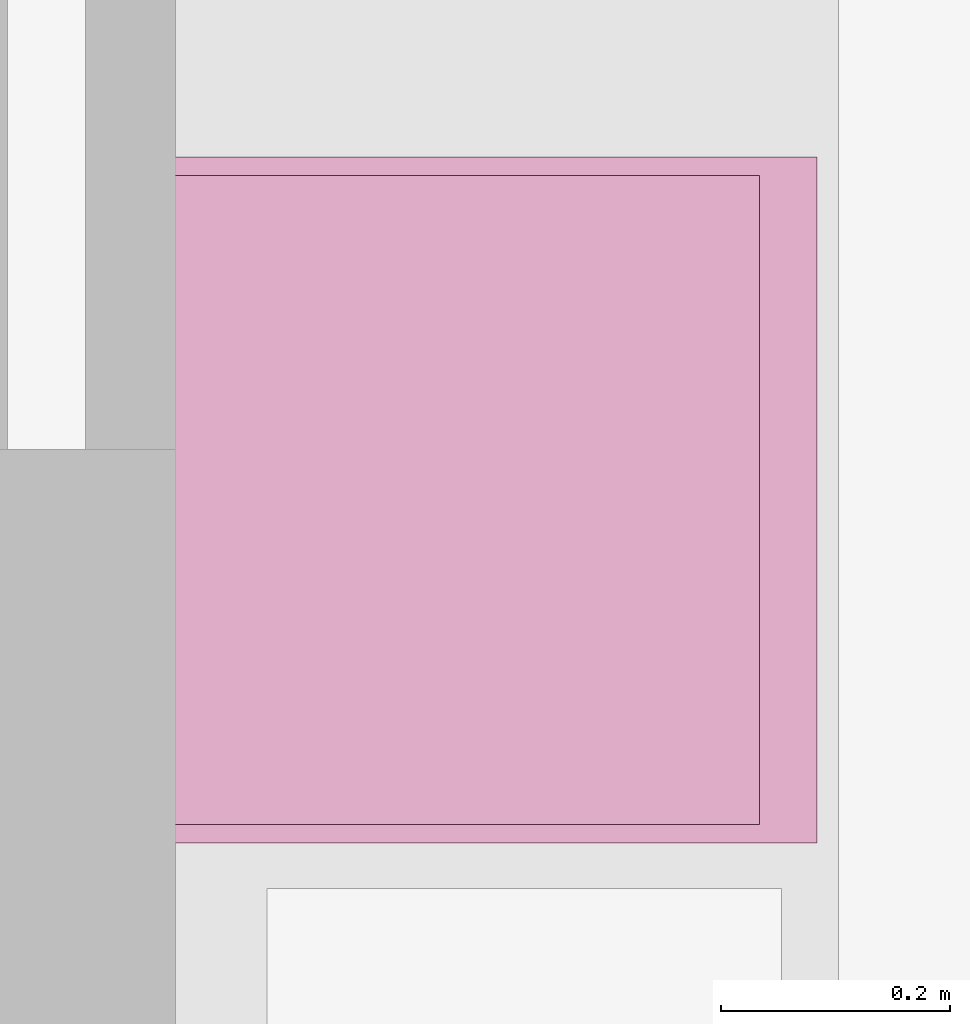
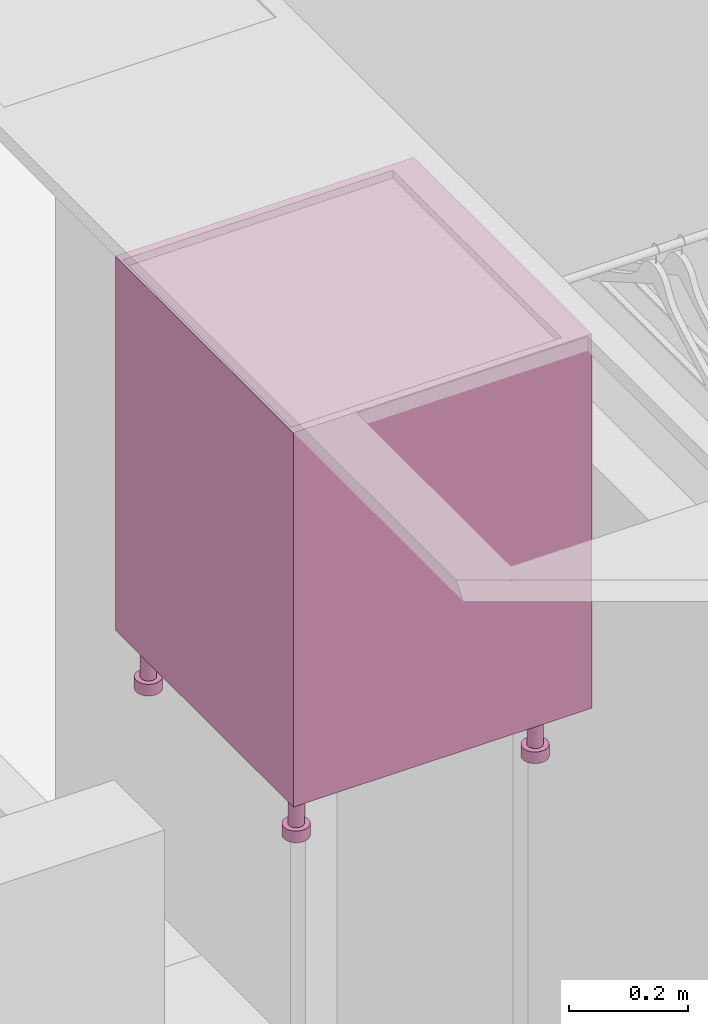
# One storey, part 34 of 68: 1 furnishing.
"""IFC2X3 building model written with IfcOpenShell, lengths in millimetres."""

from ifc_helpers import new_model, entity, si_unit, converted_unit, direction, frame, origin, place, context, subcontext, project, spatial, faceted_brep, source, transform, mapped, material, type_object, type_shapes, element, save


model = new_model("IFC2X3")

# Units and contexts
model_context = context("Model", 3, precision=0.01, world=origin(), true_north=direction((6.123233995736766e-17, 1.0)))
plan_context = context("Plan", 3, precision=0.01, world=origin(), true_north=direction((6.123233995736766e-17, 1.0)))
body_context = subcontext(model_context, "Body", "Model", "MODEL_VIEW")
ifc_project = project(units=[si_unit("LENGTHUNIT", "METRE", prefix="MILLI"), converted_unit("PLANEANGLEUNIT", "DEGREE", entity("IfcPlaneAngleMeasure", 0.017453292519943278), si_unit("PLANEANGLEUNIT", "RADIAN"), dimensions=[0, 0, 0, 0, 0, 0, 0]), si_unit("AREAUNIT", "SQUARE_METRE")], contexts=[model_context, plan_context])

# Site, building, storey, space
site_placement = place(None, origin())
site = spatial("IfcSite", under=ifc_project, at=site_placement, Name="Default", CompositionType="ELEMENT")
building_placement = place(site_placement, origin())
building = spatial("IfcBuilding", under=site, at=building_placement, CompositionType="ELEMENT")
storey_placement = place(building_placement, frame((0.0, 0.0, 6295.0)))
storey = spatial("IfcBuildingStorey", under=building, at=storey_placement, Name="3K", CompositionType="ELEMENT", Elevation=6294.999999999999)
space_placement = place(storey_placement, origin())
space = spatial("IfcSpace", under=storey, at=space_placement, Name="3-7.1", CompositionType="ELEMENT", InteriorOrExteriorSpace="INTERNAL")

# Furnishing
ifc_material = material(Name="<Unnamed>")
furniture_type = type_object("IfcFurnitureType", Name="HR_Casework_Kitchen_Generic_Appliance_v1:Dishwasher", AssemblyPlace="NOTDEFINED", material=ifc_material)
shared_shape = source(origin(), body_context, "Body", "Brep", [
    faceted_brep([(305.7003264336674, -585.7846096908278, -3101.0), (310.6708891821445, -581.9705627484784, -3101.0), (300.70032643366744, -577.1243556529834, -3101.0), (297.32379306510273, -578.5229615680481, -3101.0), (299.91198351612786, -588.1822198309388, -3101.0), (303.59982137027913, -574.8994949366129, -3101.0), (314.4849361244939, -577.0, -3101.0), (305.82468208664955, -572.0, -3101.0), (307.2232880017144, -568.6234666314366, -3101.0), (316.8825462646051, -571.2116570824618, -3101.0), (307.70032643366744, -565.0, -3101.0), (317.7003264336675, -565.0, -3101.0), (307.2232880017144, -561.3765333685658, -3101.0), (316.88254626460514, -558.7883429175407, -3101.0), (305.82468208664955, -558.0, -3101.0), (314.484936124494, -553.0, -3101.0), (303.59982137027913, -555.1005050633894, -3101.0), (310.67088918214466, -548.0294372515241, -3101.0), (300.70032643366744, -552.875644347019, -3101.0), (305.7003264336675, -544.2153903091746, -3101.0), (297.32379306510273, -551.4770384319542, -3101.0), (299.91198351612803, -541.8177801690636, -3101.0), (293.7003264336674, -551.0, -3101.0), (293.70032643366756, -541.0, -3101.0), (290.07685980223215, -551.4770384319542, -3101.0), (287.488669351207, -541.8177801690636, -3101.0), (286.70032643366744, -552.875644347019, -3101.0), (281.7003264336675, -544.2153903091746, -3101.0), (283.80083149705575, -555.1005050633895, -3101.0), (276.7297636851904, -548.029437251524, -3101.0), (281.5759707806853, -558.0, -3101.0), (272.91571674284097, -553.0, -3101.0), (270.51810660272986, -558.7883429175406, -3101.0), (280.1773648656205, -561.3765333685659, -3101.0), (269.7003264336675, -565.0, -3101.0), (279.7003264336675, -565.0, -3101.0), (270.51810660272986, -571.2116570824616, -3101.0), (280.1773648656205, -568.6234666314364, -3101.0), (272.9157167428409, -577.0, -3101.0), (281.57597078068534, -572.0, -3101.0), (276.7297636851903, -581.9705627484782, -3101.0), (283.80083149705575, -574.8994949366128, -3101.0), (281.70032643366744, -585.7846096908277, -3101.0), (286.70032643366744, -577.1243556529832, -3101.0), (287.4886693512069, -588.1822198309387, -3101.0), (290.07685980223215, -578.5229615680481, -3101.0), (293.7003264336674, -589.0, -3101.0), (293.70032643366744, -579.0, -3101.0), (299.91198351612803, -541.8177801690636, -3125.0), (305.7003264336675, -544.2153903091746, -3125.0), (310.67088918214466, -548.0294372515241, -3125.0), (314.484936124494, -553.0, -3125.0), (316.88254626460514, -558.7883429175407, -3125.0), (317.7003264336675, -565.0, -3125.0), (316.8825462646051, -571.2116570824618, -3125.0), (314.4849361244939, -577.0, -3125.0), (310.6708891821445, -581.9705627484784, -3125.0), (305.7003264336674, -585.7846096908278, -3125.0), (299.91198351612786, -588.1822198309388, -3125.0), (293.7003264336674, -589.0, -3125.0), (287.4886693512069, -588.1822198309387, -3125.0), (281.70032643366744, -585.7846096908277, -3125.0), (276.7297636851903, -581.9705627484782, -3125.0), (272.9157167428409, -577.0, -3125.0), (270.51810660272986, -571.2116570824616, -3125.0), (269.7003264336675, -565.0, -3125.0), (270.51810660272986, -558.7883429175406, -3125.0), (272.91571674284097, -553.0, -3125.0), (276.7297636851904, -548.029437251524, -3125.0), (281.7003264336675, -544.2153903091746, -3125.0), (287.488669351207, -541.8177801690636, -3125.0), (293.70032643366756, -541.0, -3125.0), (297.32379306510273, -578.5229615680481, -3025.0), (300.70032643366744, -577.1243556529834, -3025.0), (303.59982137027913, -574.8994949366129, -3025.0), (305.8246820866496, -572.0, -3025.0), (307.2232880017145, -568.6234666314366, -3025.0), (307.70032643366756, -565.0, -3025.0), (307.2232880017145, -561.3765333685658, -3025.0), (305.8246820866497, -558.0, -3025.0), (303.5998213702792, -555.1005050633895, -3025.0), (300.70032643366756, -552.875644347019, -3025.0), (297.32379306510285, -551.4770384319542, -3025.0), (293.70032643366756, -551.0, -3025.0), (290.07685980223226, -551.4770384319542, -3025.0), (286.70032643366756, -552.875644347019, -3025.0), (283.80083149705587, -555.1005050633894, -3025.0), (281.5759707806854, -558.0, -3025.0), (280.1773648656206, -561.3765333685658, -3025.0), (279.70032643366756, -565.0, -3025.0), (280.1773648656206, -568.6234666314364, -3025.0), (281.5759707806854, -572.0, -3025.0), (283.8008314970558, -574.8994949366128, -3025.0), (286.7003264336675, -577.1243556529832, -3025.0), (290.07685980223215, -578.5229615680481, -3025.0), (293.70032643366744, -579.0, -3025.0)], [[[0, 1, 2]], [[0, 2, 3]], [[3, 4, 0]], [[2, 1, 5]], [[6, 5, 1]], [[7, 5, 6]], [[8, 7, 6]], [[8, 6, 9]], [[8, 9, 10]], [[10, 9, 11]], [[12, 10, 11]], [[12, 11, 13]], [[14, 12, 13]], [[14, 13, 15]], [[16, 14, 15]], [[15, 17, 16]], [[17, 18, 16]], [[18, 17, 19]], [[18, 19, 20]], [[21, 20, 19]], [[20, 21, 22]], [[22, 21, 23]], [[23, 24, 22]], [[24, 23, 25]], [[24, 25, 26]], [[27, 26, 25]], [[27, 28, 26]], [[27, 29, 28]], [[30, 28, 29]], [[31, 30, 29]], [[32, 30, 31]], [[33, 30, 32]], [[33, 32, 34]], [[34, 35, 33]], [[36, 35, 34]], [[36, 37, 35]], [[37, 36, 38]], [[39, 37, 38]], [[39, 38, 40]], [[39, 40, 41]], [[40, 42, 41]], [[41, 42, 43]], [[43, 42, 44]], [[44, 45, 43]], [[46, 45, 44]], [[4, 47, 46]], [[45, 46, 47]], [[4, 3, 47]], [[48, 49, 50, 51, 52, 53, 54, 55, 56, 57, 58, 59, 60, 61, 62, 63, 64, 65, 66, 67, 68, 69, 70, 71]], [[64, 36, 34, 65]], [[63, 38, 36, 64]], [[42, 40, 62, 61]], [[63, 62, 40, 38]], [[44, 42, 61, 60]], [[46, 44, 60, 59]], [[58, 4, 46, 59]], [[57, 0, 4, 58]], [[54, 53, 11, 9]], [[1, 0, 57, 56]], [[6, 55, 54, 9]], [[6, 1, 56, 55]], [[52, 13, 11, 53]], [[51, 15, 13, 52]], [[19, 17, 50, 49]], [[51, 50, 17, 15]], [[21, 19, 49, 48]], [[23, 21, 48, 71]], [[27, 69, 68, 29]], [[31, 67, 66, 32]], [[68, 67, 31, 29]], [[32, 66, 65, 34]], [[25, 70, 69, 27]], [[70, 25, 23, 71]], [[72, 73, 74, 75, 76, 77, 78, 79, 80, 81, 82, 83, 84, 85, 86, 87, 88, 89, 90, 91, 92, 93, 94, 95]], [[37, 39, 91, 90]], [[35, 37, 90, 89]], [[43, 45, 94, 93]], [[41, 43, 93, 92]], [[39, 41, 92, 91]], [[47, 95, 94, 45]], [[2, 5, 74, 73]], [[3, 2, 73, 72]], [[8, 10, 77, 76]], [[7, 8, 76, 75]], [[5, 7, 75, 74]], [[3, 72, 95, 47]], [[79, 78, 12, 14]], [[78, 77, 10, 12]], [[80, 16, 18, 81]], [[16, 80, 79, 14]], [[81, 18, 20, 82]], [[22, 83, 82, 20]], [[26, 28, 86, 85]], [[24, 26, 85, 84]], [[33, 35, 89, 88]], [[30, 33, 88, 87]], [[28, 30, 87, 86]], [[24, 84, 83, 22]]]),
    faceted_brep([(-192.29967356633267, -585.7846096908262, -3101.0), (-187.3291108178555, -581.9705627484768, -3101.0), (-197.29967356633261, -577.1243556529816, -3101.0), (-200.67620693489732, -578.5229615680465, -3101.0), (-198.08801648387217, -588.1822198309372, -3101.0), (-194.40017862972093, -574.8994949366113, -3101.0), (-183.51506387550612, -577.0, -3101.0), (-192.17531791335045, -572.0, -3101.0), (-190.77671199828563, -568.6234666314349, -3101.0), (-181.11745373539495, -571.2116570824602, -3101.0), (-190.29967356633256, -565.0, -3101.0), (-180.29967356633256, -565.0, -3101.0), (-190.77671199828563, -561.3765333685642, -3101.0), (-181.11745373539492, -558.788342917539, -3101.0), (-192.17531791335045, -558.0, -3101.0), (-183.515063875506, -553.0, -3101.0), (-194.40017862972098, -555.1005050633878, -3101.0), (-187.3291108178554, -548.0294372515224, -3101.0), (-197.29967356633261, -552.8756443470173, -3101.0), (-192.29967356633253, -544.215390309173, -3101.0), (-200.67620693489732, -551.4770384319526, -3101.0), (-198.08801648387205, -541.8177801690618, -3101.0), (-204.29967356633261, -551.0, -3101.0), (-204.29967356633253, -541.0, -3101.0), (-207.92314019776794, -551.4770384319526, -3101.0), (-210.51133064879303, -541.8177801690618, -3101.0), (-211.29967356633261, -552.8756443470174, -3101.0), (-216.29967356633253, -544.215390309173, -3101.0), (-214.19916850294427, -555.1005050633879, -3101.0), (-221.27023631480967, -548.0294372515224, -3101.0), (-216.42402921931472, -558.0, -3101.0), (-225.08428325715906, -553.0, -3101.0), (-227.48189339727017, -558.788342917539, -3101.0), (-217.8226351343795, -561.3765333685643, -3101.0), (-228.2996735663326, -565.0, -3101.0), (-218.29967356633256, -565.0, -3101.0), (-227.48189339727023, -571.21165708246, -3101.0), (-217.8226351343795, -568.6234666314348, -3101.0), (-225.08428325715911, -577.0, -3101.0), (-216.42402921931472, -572.0, -3101.0), (-221.27023631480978, -581.9705627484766, -3101.0), (-214.19916850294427, -574.8994949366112, -3101.0), (-216.29967356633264, -585.784609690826, -3101.0), (-211.29967356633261, -577.1243556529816, -3101.0), (-210.51133064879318, -588.1822198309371, -3101.0), (-207.9231401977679, -578.5229615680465, -3101.0), (-204.2996735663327, -589.0, -3101.0), (-204.29967356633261, -579.0, -3101.0), (-198.08801648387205, -541.8177801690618, -3125.0), (-192.29967356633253, -544.215390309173, -3125.0), (-187.3291108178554, -548.0294372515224, -3125.0), (-183.515063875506, -553.0, -3125.0), (-181.11745373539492, -558.788342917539, -3125.0), (-180.29967356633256, -565.0, -3125.0), (-181.11745373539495, -571.2116570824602, -3125.0), (-183.51506387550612, -577.0, -3125.0), (-187.3291108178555, -581.9705627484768, -3125.0), (-192.29967356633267, -585.7846096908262, -3125.0), (-198.08801648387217, -588.1822198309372, -3125.0), (-204.2996735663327, -589.0, -3125.0), (-210.51133064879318, -588.1822198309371, -3125.0), (-216.29967356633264, -585.784609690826, -3125.0), (-221.27023631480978, -581.9705627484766, -3125.0), (-225.08428325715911, -577.0, -3125.0), (-227.48189339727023, -571.21165708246, -3125.0), (-228.2996735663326, -565.0, -3125.0), (-227.48189339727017, -558.788342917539, -3125.0), (-225.08428325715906, -553.0, -3125.0), (-221.27023631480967, -548.0294372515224, -3125.0), (-216.29967356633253, -544.215390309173, -3125.0), (-210.51133064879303, -541.8177801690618, -3125.0), (-204.29967356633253, -541.0, -3125.0), (-200.67620693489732, -578.5229615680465, -3025.0), (-197.29967356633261, -577.1243556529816, -3025.0), (-194.40017862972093, -574.8994949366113, -3025.0), (-192.17531791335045, -572.0, -3025.0), (-190.77671199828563, -568.6234666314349, -3025.0), (-190.29967356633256, -565.0, -3025.0), (-190.77671199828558, -561.3765333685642, -3025.0), (-192.1753179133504, -558.0, -3025.0), (-194.40017862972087, -555.1005050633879, -3025.0), (-197.29967356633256, -552.8756443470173, -3025.0), (-200.67620693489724, -551.4770384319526, -3025.0), (-204.29967356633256, -551.0, -3025.0), (-207.92314019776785, -551.4770384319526, -3025.0), (-211.29967356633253, -552.8756443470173, -3025.0), (-214.1991685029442, -555.1005050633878, -3025.0), (-216.4240292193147, -558.0, -3025.0), (-217.8226351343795, -561.3765333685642, -3025.0), (-218.29967356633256, -565.0, -3025.0), (-217.8226351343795, -568.6234666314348, -3025.0), (-216.42402921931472, -572.0, -3025.0), (-214.19916850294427, -574.8994949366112, -3025.0), (-211.2996735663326, -577.1243556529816, -3025.0), (-207.9231401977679, -578.5229615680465, -3025.0), (-204.29967356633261, -579.0, -3025.0)], [[[0, 1, 2]], [[0, 2, 3]], [[3, 4, 0]], [[2, 1, 5]], [[6, 5, 1]], [[7, 5, 6]], [[8, 7, 6]], [[8, 6, 9]], [[8, 9, 10]], [[10, 9, 11]], [[12, 10, 11]], [[12, 11, 13]], [[14, 12, 13]], [[14, 13, 15]], [[16, 14, 15]], [[15, 17, 16]], [[17, 18, 16]], [[18, 17, 19]], [[18, 19, 20]], [[21, 20, 19]], [[20, 21, 22]], [[22, 21, 23]], [[23, 24, 22]], [[24, 23, 25]], [[24, 25, 26]], [[27, 26, 25]], [[27, 28, 26]], [[27, 29, 28]], [[30, 28, 29]], [[31, 30, 29]], [[32, 30, 31]], [[33, 30, 32]], [[33, 32, 34]], [[34, 35, 33]], [[36, 35, 34]], [[36, 37, 35]], [[37, 36, 38]], [[39, 37, 38]], [[39, 38, 40]], [[39, 40, 41]], [[40, 42, 41]], [[41, 42, 43]], [[43, 42, 44]], [[44, 45, 43]], [[46, 45, 44]], [[4, 47, 46]], [[45, 46, 47]], [[4, 3, 47]], [[48, 49, 50, 51, 52, 53, 54, 55, 56, 57, 58, 59, 60, 61, 62, 63, 64, 65, 66, 67, 68, 69, 70, 71]], [[64, 36, 34, 65]], [[63, 38, 36, 64]], [[42, 40, 62, 61]], [[63, 62, 40, 38]], [[44, 42, 61, 60]], [[46, 44, 60, 59]], [[58, 4, 46, 59]], [[57, 0, 4, 58]], [[54, 53, 11, 9]], [[1, 0, 57, 56]], [[6, 55, 54, 9]], [[6, 1, 56, 55]], [[52, 13, 11, 53]], [[51, 15, 13, 52]], [[19, 17, 50, 49]], [[51, 50, 17, 15]], [[21, 19, 49, 48]], [[23, 21, 48, 71]], [[27, 69, 68, 29]], [[31, 67, 66, 32]], [[68, 67, 31, 29]], [[32, 66, 65, 34]], [[25, 70, 69, 27]], [[70, 25, 23, 71]], [[72, 73, 74, 75, 76, 77, 78, 79, 80, 81, 82, 83, 84, 85, 86, 87, 88, 89, 90, 91, 92, 93, 94, 95]], [[37, 39, 91, 90]], [[35, 37, 90, 89]], [[43, 45, 94, 93]], [[41, 43, 93, 92]], [[39, 41, 92, 91]], [[47, 95, 94, 45]], [[2, 5, 74, 73]], [[3, 2, 73, 72]], [[8, 10, 77, 76]], [[7, 8, 76, 75]], [[5, 7, 75, 74]], [[3, 72, 95, 47]], [[79, 78, 12, 14]], [[78, 77, 10, 12]], [[80, 16, 18, 81]], [[16, 80, 79, 14]], [[81, 18, 20, 82]], [[22, 83, 82, 20]], [[26, 28, 86, 85]], [[24, 26, 85, 84]], [[33, 35, 89, 88]], [[30, 33, 88, 87]], [[28, 30, 87, 86]], [[24, 84, 83, 22]]]),
    faceted_brep([(305.70032643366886, -120.78460969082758, -3101.0), (310.670889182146, -116.97056274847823, -3101.0), (300.7003264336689, -112.12435565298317, -3101.0), (297.3237930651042, -113.52296156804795, -3101.0), (299.91198351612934, -123.18221983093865, -3101.0), (303.5998213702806, -109.8994949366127, -3101.0), (314.48493612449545, -112.0, -3101.0), (305.824682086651, -107.0, -3101.0), (307.2232880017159, -103.62346663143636, -3101.0), (316.88254626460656, -106.21165708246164, -3101.0), (307.700326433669, -100.0, -3101.0), (317.700326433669, -100.0, -3101.0), (307.2232880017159, -96.3765333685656, -3101.0), (316.8825462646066, -93.78834291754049, -3101.0), (305.824682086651, -93.0, -3101.0), (314.4849361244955, -88.0, -3101.0), (303.5998213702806, -90.10050506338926, -3101.0), (310.67088918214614, -83.02943725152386, -3101.0), (300.7003264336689, -87.8756443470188, -3101.0), (305.700326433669, -79.21539030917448, -3101.0), (297.3237930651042, -86.477038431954, -3101.0), (299.9119835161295, -76.81778016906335, -3101.0), (293.70032643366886, -86.0, -3101.0), (293.70032643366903, -76.0, -3101.0), (290.0768598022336, -86.47703843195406, -3101.0), (287.4886693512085, -76.81778016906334, -3101.0), (286.7003264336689, -87.87564434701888, -3101.0), (281.700326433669, -79.21539030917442, -3101.0), (283.8008314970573, -90.10050506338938, -3101.0), (276.72976368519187, -83.0294372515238, -3101.0), (281.5759707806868, -93.0, -3101.0), (272.91571674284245, -88.0, -3101.0), (270.51810660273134, -93.78834291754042, -3101.0), (280.177364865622, -96.37653336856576, -3101.0), (269.700326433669, -100.0, -3101.0), (279.700326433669, -100.0, -3101.0), (270.51810660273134, -106.2116570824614, -3101.0), (280.177364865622, -103.62346663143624, -3101.0), (272.9157167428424, -112.0, -3101.0), (281.5759707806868, -107.0, -3101.0), (276.72976368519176, -116.97056274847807, -3101.0), (283.8008314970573, -109.89949493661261, -3101.0), (281.7003264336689, -120.78460969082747, -3101.0), (286.7003264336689, -112.1243556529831, -3101.0), (287.4886693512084, -123.1822198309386, -3101.0), (290.0768598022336, -113.52296156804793, -3101.0), (293.70032643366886, -124.0, -3101.0), (293.7003264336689, -114.0, -3101.0), (299.9119835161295, -76.81778016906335, -3125.0), (305.700326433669, -79.21539030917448, -3125.0), (310.67088918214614, -83.02943725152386, -3125.0), (314.4849361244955, -88.0, -3125.0), (316.8825462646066, -93.78834291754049, -3125.0), (317.700326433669, -100.0, -3125.0), (316.88254626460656, -106.21165708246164, -3125.0), (314.48493612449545, -112.0, -3125.0), (310.670889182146, -116.97056274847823, -3125.0), (305.70032643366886, -120.78460969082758, -3125.0), (299.91198351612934, -123.18221983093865, -3125.0), (293.70032643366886, -124.0, -3125.0), (287.4886693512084, -123.1822198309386, -3125.0), (281.7003264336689, -120.78460969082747, -3125.0), (276.72976368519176, -116.97056274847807, -3125.0), (272.9157167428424, -112.0, -3125.0), (270.51810660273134, -106.2116570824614, -3125.0), (269.700326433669, -100.0, -3125.0), (270.51810660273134, -93.78834291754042, -3125.0), (272.91571674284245, -88.0, -3125.0), (276.72976368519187, -83.0294372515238, -3125.0), (281.700326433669, -79.21539030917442, -3125.0), (287.4886693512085, -76.81778016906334, -3125.0), (293.70032643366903, -76.0, -3125.0), (297.32379306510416, -113.52296156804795, -3025.0), (300.70032643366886, -112.12435565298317, -3025.0), (303.59982137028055, -109.8994949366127, -3025.0), (305.824682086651, -107.0, -3025.0), (307.22328800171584, -103.62346663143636, -3025.0), (307.700326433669, -100.0, -3025.0), (307.2232880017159, -96.3765333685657, -3025.0), (305.82468208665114, -93.0, -3025.0), (303.5998213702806, -90.10050506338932, -3025.0), (300.700326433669, -87.87564434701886, -3025.0), (297.32379306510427, -86.47703843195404, -3025.0), (293.700326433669, -86.0, -3025.0), (290.0768598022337, -86.47703843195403, -3025.0), (286.700326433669, -87.87564434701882, -3025.0), (283.8008314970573, -90.1005050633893, -3025.0), (281.5759707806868, -93.0, -3025.0), (280.177364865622, -96.37653336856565, -3025.0), (279.700326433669, -100.0, -3025.0), (280.177364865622, -103.62346663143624, -3025.0), (281.5759707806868, -107.0, -3025.0), (283.80083149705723, -109.89949493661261, -3025.0), (286.7003264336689, -112.1243556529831, -3025.0), (290.07685980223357, -113.52296156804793, -3025.0), (293.70032643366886, -114.0, -3025.0)], [[[0, 1, 2]], [[0, 2, 3]], [[3, 4, 0]], [[2, 1, 5]], [[6, 5, 1]], [[7, 5, 6]], [[8, 7, 6]], [[8, 6, 9]], [[8, 9, 10]], [[10, 9, 11]], [[12, 10, 11]], [[12, 11, 13]], [[14, 12, 13]], [[14, 13, 15]], [[16, 14, 15]], [[15, 17, 16]], [[17, 18, 16]], [[18, 17, 19]], [[18, 19, 20]], [[21, 20, 19]], [[20, 21, 22]], [[22, 21, 23]], [[23, 24, 22]], [[24, 23, 25]], [[24, 25, 26]], [[27, 26, 25]], [[27, 28, 26]], [[27, 29, 28]], [[30, 28, 29]], [[31, 30, 29]], [[32, 30, 31]], [[33, 30, 32]], [[33, 32, 34]], [[34, 35, 33]], [[36, 35, 34]], [[36, 37, 35]], [[37, 36, 38]], [[39, 37, 38]], [[39, 38, 40]], [[39, 40, 41]], [[40, 42, 41]], [[41, 42, 43]], [[43, 42, 44]], [[44, 45, 43]], [[46, 45, 44]], [[4, 47, 46]], [[45, 46, 47]], [[4, 3, 47]], [[48, 49, 50, 51, 52, 53, 54, 55, 56, 57, 58, 59, 60, 61, 62, 63, 64, 65, 66, 67, 68, 69, 70, 71]], [[64, 36, 34, 65]], [[63, 38, 36, 64]], [[42, 40, 62, 61]], [[63, 62, 40, 38]], [[44, 42, 61, 60]], [[46, 44, 60, 59]], [[58, 4, 46, 59]], [[57, 0, 4, 58]], [[54, 53, 11, 9]], [[1, 0, 57, 56]], [[6, 55, 54, 9]], [[6, 1, 56, 55]], [[52, 13, 11, 53]], [[51, 15, 13, 52]], [[19, 17, 50, 49]], [[51, 50, 17, 15]], [[21, 19, 49, 48]], [[23, 21, 48, 71]], [[27, 69, 68, 29]], [[31, 67, 66, 32]], [[68, 67, 31, 29]], [[32, 66, 65, 34]], [[25, 70, 69, 27]], [[70, 25, 23, 71]], [[72, 73, 74, 75, 76, 77, 78, 79, 80, 81, 82, 83, 84, 85, 86, 87, 88, 89, 90, 91, 92, 93, 94, 95]], [[37, 39, 91, 90]], [[35, 37, 90, 89]], [[43, 45, 94, 93]], [[41, 43, 93, 92]], [[39, 41, 92, 91]], [[47, 95, 94, 45]], [[2, 5, 74, 73]], [[3, 2, 73, 72]], [[8, 10, 77, 76]], [[7, 8, 76, 75]], [[5, 7, 75, 74]], [[3, 72, 95, 47]], [[79, 78, 12, 14]], [[78, 77, 10, 12]], [[80, 16, 18, 81]], [[16, 80, 79, 14]], [[81, 18, 20, 82]], [[22, 83, 82, 20]], [[26, 28, 86, 85]], [[24, 26, 85, 84]], [[33, 35, 89, 88]], [[30, 33, 88, 87]], [[28, 30, 87, 86]], [[24, 84, 83, 22]]]),
    faceted_brep([(-192.299673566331, -120.78460969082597, -3101.0), (-187.3291108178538, -116.97056274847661, -3101.0), (-197.29967356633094, -112.12435565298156, -3101.0), (-200.67620693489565, -113.52296156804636, -3101.0), (-198.0880164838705, -123.18221983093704, -3101.0), (-194.40017862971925, -109.89949493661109, -3101.0), (-183.5150638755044, -112.0, -3101.0), (-192.17531791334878, -107.0, -3101.0), (-190.77671199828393, -103.62346663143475, -3101.0), (-181.11745373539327, -106.21165708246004, -3101.0), (-190.29967356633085, -100.0, -3101.0), (-180.29967356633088, -100.0, -3101.0), (-190.77671199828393, -96.376533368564, -3101.0), (-181.11745373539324, -93.78834291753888, -3101.0), (-192.17531791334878, -93.0, -3101.0), (-183.51506387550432, -88.0, -3101.0), (-194.40017862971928, -90.10050506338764, -3101.0), (-187.32911081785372, -83.02943725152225, -3101.0), (-197.29967356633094, -87.8756443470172, -3101.0), (-192.29967356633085, -79.21539030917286, -3101.0), (-200.67620693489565, -86.4770384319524, -3101.0), (-198.08801648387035, -76.81778016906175, -3101.0), (-204.29967356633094, -86.0, -3101.0), (-204.29967356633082, -76.0, -3101.0), (-207.92314019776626, -86.47703843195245, -3101.0), (-210.51133064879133, -76.81778016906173, -3101.0), (-211.29967356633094, -87.87564434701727, -3101.0), (-216.29967356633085, -79.21539030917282, -3101.0), (-214.19916850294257, -90.10050506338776, -3101.0), (-221.270236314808, -83.0294372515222, -3101.0), (-216.424029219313, -93.0, -3101.0), (-225.08428325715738, -88.0, -3101.0), (-227.4818933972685, -93.78834291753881, -3101.0), (-217.82263513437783, -96.37653336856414, -3101.0), (-228.29967356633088, -100.0, -3101.0), (-218.29967356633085, -100.0, -3101.0), (-227.48189339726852, -106.2116570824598, -3101.0), (-217.82263513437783, -103.62346663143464, -3101.0), (-225.08428325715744, -112.0, -3101.0), (-216.424029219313, -107.0, -3101.0), (-221.27023631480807, -116.97056274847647, -3101.0), (-214.19916850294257, -109.899494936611, -3101.0), (-216.29967356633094, -120.78460969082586, -3101.0), (-211.29967356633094, -112.12435565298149, -3101.0), (-210.51133064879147, -123.18221983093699, -3101.0), (-207.9231401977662, -113.52296156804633, -3101.0), (-204.299673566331, -124.0, -3101.0), (-204.29967356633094, -114.0, -3101.0), (-198.08801648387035, -76.81778016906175, -3125.0), (-192.29967356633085, -79.21539030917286, -3125.0), (-187.32911081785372, -83.02943725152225, -3125.0), (-183.51506387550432, -88.0, -3125.0), (-181.11745373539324, -93.78834291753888, -3125.0), (-180.29967356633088, -100.0, -3125.0), (-181.11745373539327, -106.21165708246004, -3125.0), (-183.5150638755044, -112.0, -3125.0), (-187.3291108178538, -116.97056274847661, -3125.0), (-192.299673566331, -120.78460969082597, -3125.0), (-198.0880164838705, -123.18221983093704, -3125.0), (-204.299673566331, -124.0, -3125.0), (-210.51133064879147, -123.18221983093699, -3125.0), (-216.29967356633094, -120.78460969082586, -3125.0), (-221.27023631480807, -116.97056274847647, -3125.0), (-225.08428325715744, -112.0, -3125.0), (-227.48189339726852, -106.2116570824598, -3125.0), (-228.29967356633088, -100.0, -3125.0), (-227.4818933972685, -93.78834291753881, -3125.0), (-225.08428325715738, -88.0, -3125.0), (-221.270236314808, -83.0294372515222, -3125.0), (-216.29967356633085, -79.21539030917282, -3125.0), (-210.51133064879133, -76.81778016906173, -3125.0), (-204.29967356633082, -76.0, -3125.0), (-200.67620693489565, -113.52296156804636, -3025.0), (-197.29967356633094, -112.12435565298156, -3025.0), (-194.40017862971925, -109.89949493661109, -3025.0), (-192.17531791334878, -107.0, -3025.0), (-190.77671199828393, -103.62346663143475, -3025.0), (-190.29967356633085, -100.0, -3025.0), (-190.7767119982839, -96.3765333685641, -3025.0), (-192.1753179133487, -93.0, -3025.0), (-194.4001786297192, -90.10050506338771, -3025.0), (-197.29967356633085, -87.87564434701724, -3025.0), (-200.67620693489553, -86.47703843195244, -3025.0), (-204.29967356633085, -86.0, -3025.0), (-207.92314019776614, -86.47703843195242, -3025.0), (-211.29967356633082, -87.87564434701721, -3025.0), (-214.1991685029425, -90.10050506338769, -3025.0), (-216.42402921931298, -93.0, -3025.0), (-217.82263513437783, -96.37653336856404, -3025.0), (-218.29967356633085, -100.0, -3025.0), (-217.82263513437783, -103.62346663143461, -3025.0), (-216.424029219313, -107.0, -3025.0), (-214.19916850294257, -109.899494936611, -3025.0), (-211.29967356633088, -112.12435565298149, -3025.0), (-207.9231401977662, -113.52296156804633, -3025.0), (-204.29967356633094, -114.0, -3025.0)], [[[0, 1, 2]], [[0, 2, 3]], [[3, 4, 0]], [[2, 1, 5]], [[6, 5, 1]], [[7, 5, 6]], [[8, 7, 6]], [[8, 6, 9]], [[8, 9, 10]], [[10, 9, 11]], [[12, 10, 11]], [[12, 11, 13]], [[14, 12, 13]], [[14, 13, 15]], [[16, 14, 15]], [[15, 17, 16]], [[17, 18, 16]], [[18, 17, 19]], [[18, 19, 20]], [[21, 20, 19]], [[20, 21, 22]], [[22, 21, 23]], [[23, 24, 22]], [[24, 23, 25]], [[24, 25, 26]], [[27, 26, 25]], [[27, 28, 26]], [[27, 29, 28]], [[30, 28, 29]], [[31, 30, 29]], [[32, 30, 31]], [[33, 30, 32]], [[33, 32, 34]], [[34, 35, 33]], [[36, 35, 34]], [[36, 37, 35]], [[37, 36, 38]], [[39, 37, 38]], [[39, 38, 40]], [[39, 40, 41]], [[40, 42, 41]], [[41, 42, 43]], [[43, 42, 44]], [[44, 45, 43]], [[46, 45, 44]], [[4, 47, 46]], [[45, 46, 47]], [[4, 3, 47]], [[48, 49, 50, 51, 52, 53, 54, 55, 56, 57, 58, 59, 60, 61, 62, 63, 64, 65, 66, 67, 68, 69, 70, 71]], [[64, 36, 34, 65]], [[63, 38, 36, 64]], [[42, 40, 62, 61]], [[63, 62, 40, 38]], [[44, 42, 61, 60]], [[46, 44, 60, 59]], [[58, 4, 46, 59]], [[57, 0, 4, 58]], [[54, 53, 11, 9]], [[1, 0, 57, 56]], [[6, 55, 54, 9]], [[6, 1, 56, 55]], [[52, 13, 11, 53]], [[51, 15, 13, 52]], [[19, 17, 50, 49]], [[51, 50, 17, 15]], [[21, 19, 49, 48]], [[23, 21, 48, 71]], [[27, 69, 68, 29]], [[31, 67, 66, 32]], [[68, 67, 31, 29]], [[32, 66, 65, 34]], [[25, 70, 69, 27]], [[70, 25, 23, 71]], [[72, 73, 74, 75, 76, 77, 78, 79, 80, 81, 82, 83, 84, 85, 86, 87, 88, 89, 90, 91, 92, 93, 94, 95]], [[37, 39, 91, 90]], [[35, 37, 90, 89]], [[43, 45, 94, 93]], [[41, 43, 93, 92]], [[39, 41, 92, 91]], [[47, 95, 94, 45]], [[2, 5, 74, 73]], [[3, 2, 73, 72]], [[8, 10, 77, 76]], [[7, 8, 76, 75]], [[5, 7, 75, 74]], [[3, 72, 95, 47]], [[79, 78, 12, 14]], [[78, 77, 10, 12]], [[80, 16, 18, 81]], [[16, 80, 79, 14]], [[81, 18, 20, 82]], [[22, 83, 82, 20]], [[26, 28, 86, 85]], [[24, 26, 85, 84]], [[33, 35, 89, 88]], [[30, 33, 88, 87]], [[28, 30, 87, 86]], [[24, 84, 83, 22]]]),
    faceted_brep([(328.70032643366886, -19.0, -3009.0), (-239.2996735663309, -19.0, -3009.0), (-239.29967356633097, -595.0, -3009.0), (328.70032643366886, -595.0, -3009.0), (328.70032643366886, -19.0, -3025.0), (328.70032643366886, -595.0, -3025.0), (-239.29967356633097, -595.0, -3025.0), (-239.29967356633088, -19.0, -3025.0)], [[[0, 1, 2, 3]], [[4, 5, 6, 7]], [[1, 0, 4, 7]], [[2, 1, 7, 6]], [[3, 2, 6, 5]], [[0, 3, 5, 4]]]),
    faceted_brep([(-255.29967356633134, -19.0, -2255.0), (-255.2996735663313, -600.0, -2255.0), (344.7003264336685, -600.0, -2255.0), (344.7003264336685, -19.0, -2255.0), (328.70032643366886, -19.0, -2255.0), (328.70032643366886, -595.0, -2255.0), (-239.2996735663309, -595.0, -2255.0), (-239.2996735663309, -19.0, -2255.0), (-255.29967356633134, -19.0, -3025.0), (-239.2996735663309, -19.0, -3025.0), (-239.29967356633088, -595.0, -3025.0), (328.70032643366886, -595.0, -3025.0), (328.70032643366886, -19.0, -3025.0), (344.7003264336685, -19.0, -3025.0), (344.7003264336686, -600.0, -3025.0), (-255.2996735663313, -600.0, -3025.0)], [[[0, 1, 2, 3, 4, 5, 6, 7]], [[8, 9, 10, 11, 12, 13, 14, 15]], [[1, 0, 8, 15]], [[0, 7, 9, 8]], [[7, 6, 10, 9]], [[5, 4, 12, 11]], [[4, 3, 13, 12]], [[3, 2, 14, 13]], [[2, 1, 15, 14]], [[6, 5, 11, 10]]]),
    faceted_brep([(328.70032643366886, -69.0, -2255.0), (328.70032643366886, -19.0, -2255.0), (-239.29967356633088, -19.0, -2255.0), (-239.29967356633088, -69.0, -2255.0), (328.70032643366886, -69.0, -2271.0), (-239.29967356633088, -69.0, -2271.0), (-239.29967356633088, -19.0, -2271.0), (328.70032643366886, -19.0, -2271.0)], [[[0, 1, 2, 3]], [[4, 5, 6, 7]], [[0, 3, 5, 4]], [[3, 2, 6, 5]], [[2, 1, 7, 6]], [[1, 0, 4, 7]]]),
    faceted_brep([(328.7003264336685, -19.0, -2271.0), (-239.29967356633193, -19.0, -2271.0), (-239.2996735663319, -595.0, -2271.0), (328.7003264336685, -595.0, -2271.0), (328.7003264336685, -19.0, -3009.0), (328.7003264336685, -595.0, -3009.0), (-239.2996735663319, -595.0, -3009.0), (-239.2996735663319, -19.0, -3009.0)], [[[0, 1, 2, 3]], [[4, 5, 6, 7]], [[1, 0, 4, 7]], [[2, 1, 7, 6]], [[3, 2, 6, 5]], [[0, 3, 5, 4]]]),
])
type_shapes(furniture_type, [shared_shape])
furnishing_placement = place(space_placement, frame((12668.0, 9210.700326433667, 6295.000076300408), z_axis=(0.0, 0.0, 1.0), x_axis=(0.0, -1.0, 0.0)))
element("IfcFurnishingElement", 1, at=furnishing_placement, inside=space, type_object=furniture_type, material=ifc_material, Name="HR_Casework_Kitchen_Generic_Appliance_v1:Dishwasher", ObjectType="HR_Casework_Kitchen_Generic_Appliance_v1:Dishwasher", context=body_context, shape_type="MappedRepresentation", body=[
    mapped(shared_shape, transform((0.0, 0.0, 0.0), scale=1.0)),
])

save(model, "model.ifc")
